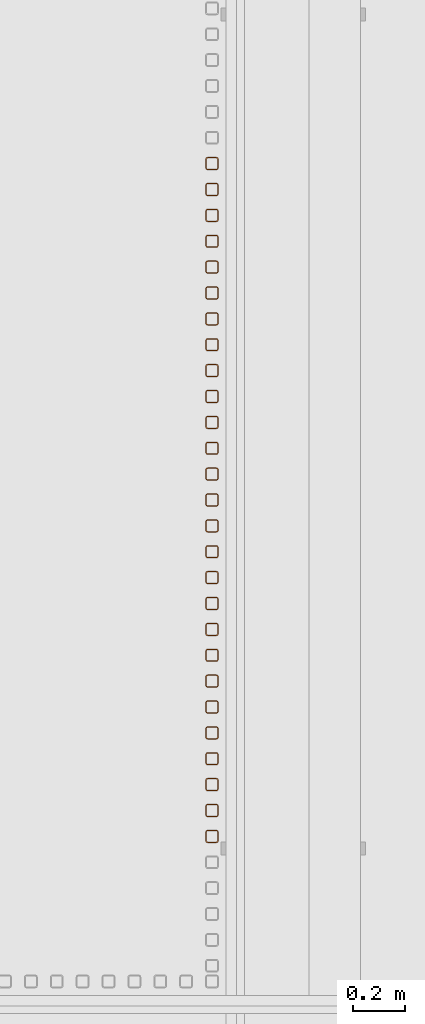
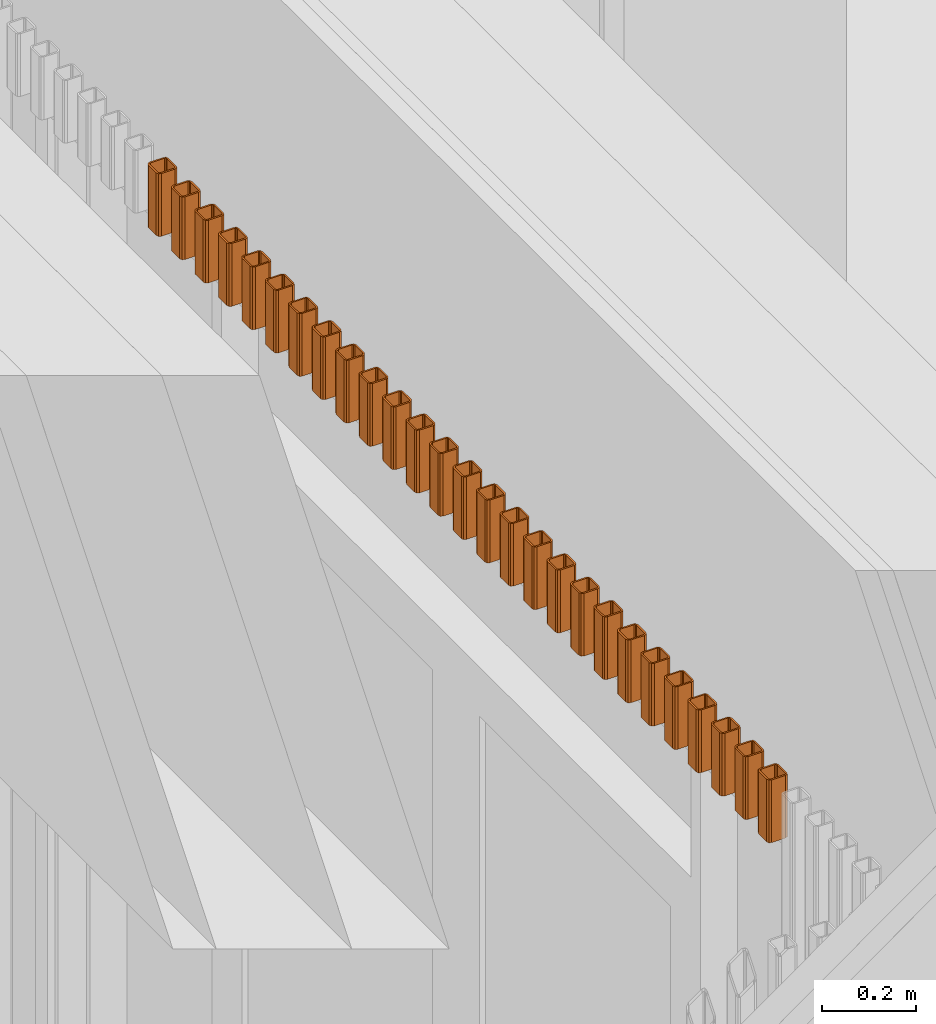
# One storey, part 96 of 112: 27 proxies.
"""IFC2X3 building model written with IfcOpenShell, lengths in millimetres."""

from ifc_helpers import new_model, entity, si_unit, converted_unit, derived_unit, money_unit, direction, frame, origin_with_axes, place, context, subcontext, project, spatial, faceted_brep, source, transform, mapped, material, type_object, element, save


model = new_model("IFC2X3")

# Units and contexts
model_context = context("Model", 3, precision=0.01, world=origin_with_axes(), true_north=direction((0.0, 1.0)))
body_context = subcontext(model_context, "Body", "Model", "MODEL_VIEW")
ifc_project = project(units=[si_unit("LENGTHUNIT", "METRE", prefix="MILLI"), si_unit("AREAUNIT", "SQUARE_METRE"), si_unit("VOLUMEUNIT", "CUBIC_METRE"), converted_unit("PLANEANGLEUNIT", "DEGREE", entity("IfcPlaneAngleMeasure", 0.0174532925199), si_unit("PLANEANGLEUNIT", "RADIAN"), dimensions=[0, 0, 0, 0, 0, 0, 0]), si_unit("SOLIDANGLEUNIT", "STERADIAN"), money_unit("EUR"), converted_unit("TIMEUNIT", "Year", entity("IfcTimeMeasure", 31556926.0), si_unit("TIMEUNIT", "SECOND"), dimensions=[0, 0, 1, 0, 0, 0, 0]), si_unit("MASSUNIT", "GRAM", prefix="KILO"), si_unit("THERMODYNAMICTEMPERATUREUNIT", "DEGREE_CELSIUS"), si_unit("LUMINOUSINTENSITYUNIT", "LUMEN"), si_unit("ENERGYUNIT", "JOULE", prefix="MEGA"), derived_unit("THERMALCONDUCTANCEUNIT", [(si_unit("POWERUNIT", "WATT"), 1), (si_unit("LENGTHUNIT", "METRE"), -1), (si_unit("THERMODYNAMICTEMPERATUREUNIT", "KELVIN"), -1)]), derived_unit("SPECIFICHEATCAPACITYUNIT", [(si_unit("ENERGYUNIT", "JOULE"), 1), (si_unit("MASSUNIT", "GRAM", prefix="KILO"), -1), (si_unit("THERMODYNAMICTEMPERATUREUNIT", "KELVIN"), -1)]), derived_unit("MASSDENSITYUNIT", [(si_unit("MASSUNIT", "GRAM", prefix="KILO"), 1), (si_unit("VOLUMEUNIT", "CUBIC_METRE"), -1)])], contexts=[model_context])

# Site, building, storey
site_placement = place(None, origin_with_axes())
site = spatial("IfcSite", under=ifc_project, at=site_placement, Name="Politse- ja Piirivalveameti ning Päästeameti ühishoone", CompositionType="ELEMENT")
building_placement = place(site_placement, origin_with_axes())
building = spatial("IfcBuilding", under=site, at=building_placement, Name="Politse- ja Piirivalveameti ning Päästeameti ühishoone", CompositionType="ELEMENT")
storey_placement = place(building_placement, origin_with_axes())
storey = spatial("IfcBuildingStorey", under=building, at=storey_placement, Name="Esimene korrus", CompositionType="ELEMENT", Elevation=0.0)

# Proxies
ifc_material = material(Name="ET-05_Teras")
building_element_proxy_type = type_object("IfcBuildingElementProxyType", Name="SHS Cold-Formed Column 23", PredefinedType="NOTDEFINED")
shared_shape = source(origin_with_axes(), body_context, "Body", "Brep", [
    faceted_brep([(17.0, -25.0, 0.0), (17.0, -25.0, 163.0), (-17.0, -25.0, 163.0), (-17.0, -25.0, 0.0), (22.6568542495, -22.6568542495, 0.0), (22.6568542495, -22.6568542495, 163.0), (25.0, -17.0, 163.0), (25.0, 17.0, 163.0), (22.6568542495, 22.6568542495, 163.0), (17.0, 25.0, 163.0), (-17.0, 25.0, 163.0), (-22.6568542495, 22.6568542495, 163.0), (-25.0, 17.0, 163.0), (-25.0, -17.0, 163.0), (-22.6568542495, -22.6568542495, 163.0), (17.0, -21.0, 163.0), (-17.0, -21.0, 163.0), (-19.8284271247, -19.8284271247, 163.0), (-21.0, -17.0, 163.0), (-21.0, 17.0, 163.0), (-19.8284271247, 19.8284271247, 163.0), (-17.0, 21.0, 163.0), (17.0, 21.0, 163.0), (19.8284271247, 19.8284271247, 163.0), (21.0, 17.0, 163.0), (21.0, -17.0, 163.0), (19.8284271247, -19.8284271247, 163.0), (-22.6568542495, -22.6568542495, 0.0), (-25.0, -17.0, 0.0), (-25.0, 17.0, 0.0), (-22.6568542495, 22.6568542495, 0.0), (-17.0, 25.0, 0.0), (17.0, 25.0, 0.0), (22.6568542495, 22.6568542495, 0.0), (25.0, 17.0, 0.0), (25.0, -17.0, 0.0), (17.0, -21.0, 0.0), (19.8284271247, -19.8284271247, 0.0), (21.0, -17.0, 0.0), (21.0, 17.0, 0.0), (19.8284271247, 19.8284271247, 0.0), (17.0, 21.0, 0.0), (-17.0, 21.0, 0.0), (-19.8284271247, 19.8284271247, 0.0), (-21.0, 17.0, 0.0), (-21.0, -17.0, 0.0), (-19.8284271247, -19.8284271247, 0.0), (-17.0, -21.0, 0.0)], [[[0, 1, 2, 3]], [[4, 5, 1, 0]], [[1, 5, 6, 7, 8, 9, 10, 11, 12, 13, 14, 2], [15, 16, 17, 18, 19, 20, 21, 22, 23, 24, 25, 26]], [[3, 2, 14, 27]], [[0, 3, 27, 28, 29, 30, 31, 32, 33, 34, 35, 4], [36, 37, 38, 39, 40, 41, 42, 43, 44, 45, 46, 47]], [[35, 6, 5, 4]], [[34, 7, 6, 35]], [[33, 8, 7, 34]], [[32, 9, 8, 33]], [[31, 10, 9, 32]], [[30, 11, 10, 31]], [[29, 12, 11, 30]], [[28, 13, 12, 29]], [[27, 14, 13, 28]], [[47, 16, 15, 36]], [[46, 17, 16, 47]], [[45, 18, 17, 46]], [[44, 19, 18, 45]], [[43, 20, 19, 44]], [[42, 21, 20, 43]], [[41, 22, 21, 42]], [[40, 23, 22, 41]], [[39, 24, 23, 40]], [[38, 25, 24, 39]], [[37, 26, 25, 38]], [[36, 15, 26, 37]]]),
])
for number, where, z_axis, x_axis in (
    (1, (61085.9088163, 24735.2240928, 2637.0), (0.0, 0.0, 1.0), (1.0, 0.0, 0.0)),
    (2, (61085.9088163, 24635.2240928, 2637.0), (0.0, 0.0, 1.0), (1.0, 0.0, 0.0)),
    (3, (61085.9088163, 24535.2240928, 2637.0), (0.0, 0.0, 1.0), (1.0, 0.0, 0.0)),
    (4, (61085.9088163, 24435.2240928, 2637.0), (0.0, 0.0, 1.0), (1.0, 0.0, 0.0)),
    (5, (61085.9088163, 24335.2240928, 2637.0), (0.0, 0.0, 1.0), (1.0, 0.0, 0.0)),
    (6, (61085.9088163, 24235.2240928, 2637.0), (0.0, 0.0, 1.0), (1.0, 0.0, 0.0)),
    (7, (61085.9088163, 24135.2240928, 2637.0), (0.0, 0.0, 1.0), (1.0, 0.0, 0.0)),
    (8, (61085.9088163, 24035.2240928, 2637.0), (0.0, 0.0, 1.0), (1.0, 0.0, 0.0)),
    (9, (61085.9088163, 23935.2240928, 2637.0), (0.0, 0.0, 1.0), (1.0, 0.0, 0.0)),
    (10, (61085.9088163, 23835.2240928, 2637.0), (0.0, 0.0, 1.0), (1.0, 0.0, 0.0)),
    (11, (61085.9088163, 23735.2240928, 2637.0), (0.0, 0.0, 1.0), (1.0, 0.0, 0.0)),
    (12, (61085.9088163, 23635.2240928, 2637.0), (0.0, 0.0, 1.0), (1.0, 0.0, 0.0)),
    (13, (61085.9088163, 23535.2240928, 2637.0), (0.0, 0.0, 1.0), (1.0, 0.0, 0.0)),
    (14, (61085.9088163, 23435.2240928, 2637.0), (0.0, 0.0, 1.0), (1.0, 0.0, 0.0)),
    (15, (61085.9088163, 23335.2240928, 2637.0), (0.0, 0.0, 1.0), (1.0, 0.0, 0.0)),
    (16, (61085.9088163, 23235.2240928, 2637.0), (0.0, 0.0, 1.0), (1.0, 0.0, 0.0)),
    (17, (61085.9088163, 23135.2240928, 2637.0), (0.0, 0.0, 1.0), (1.0, 0.0, 0.0)),
    (18, (61085.9088163, 23035.2240928, 2637.0), (0.0, 0.0, 1.0), (1.0, 0.0, 0.0)),
    (19, (61085.9088163, 22935.2240928, 2637.0), (0.0, 0.0, 1.0), (1.0, 0.0, 0.0)),
    (20, (61085.9088163, 22835.2240928, 2637.0), (0.0, 0.0, 1.0), (1.0, 0.0, 0.0)),
    (21, (61085.9088163, 22735.2240928, 2637.0), (0.0, 0.0, 1.0), (1.0, 0.0, 0.0)),
    (22, (61085.9088163, 22635.2240928, 2637.0), (0.0, 0.0, 1.0), (1.0, 0.0, 0.0)),
    (23, (61085.9088163, 22535.2240928, 2637.0), (0.0, 0.0, 1.0), (1.0, 0.0, 0.0)),
    (24, (61085.9088163, 22435.2240928, 2637.0), (0.0, 0.0, 1.0), (1.0, 0.0, 0.0)),
    (25, (61085.9088163, 22335.2240928, 2637.0), (0.0, 0.0, 1.0), (1.0, 0.0, 0.0)),
    (26, (61085.9088163, 22235.2240928, 2637.0), (0.0, 0.0, 1.0), (1.0, 0.0, 0.0)),
    (27, (61085.9088163, 22135.2240928, 2637.0), (0.0, 0.0, 1.0), (1.0, 0.0, 0.0)),
):
    element("IfcBuildingElementProxy", number, at=place(storey_placement, frame(where, z_axis=z_axis, x_axis=x_axis)), inside=storey, type_object=building_element_proxy_type, material=ifc_material, Name="Fassaadiribid", context=body_context, shape_type="MappedRepresentation", body=[
        mapped(shared_shape, transform((0.0, 0.0, 0.0))),
    ])

save(model, "model.ifc")
